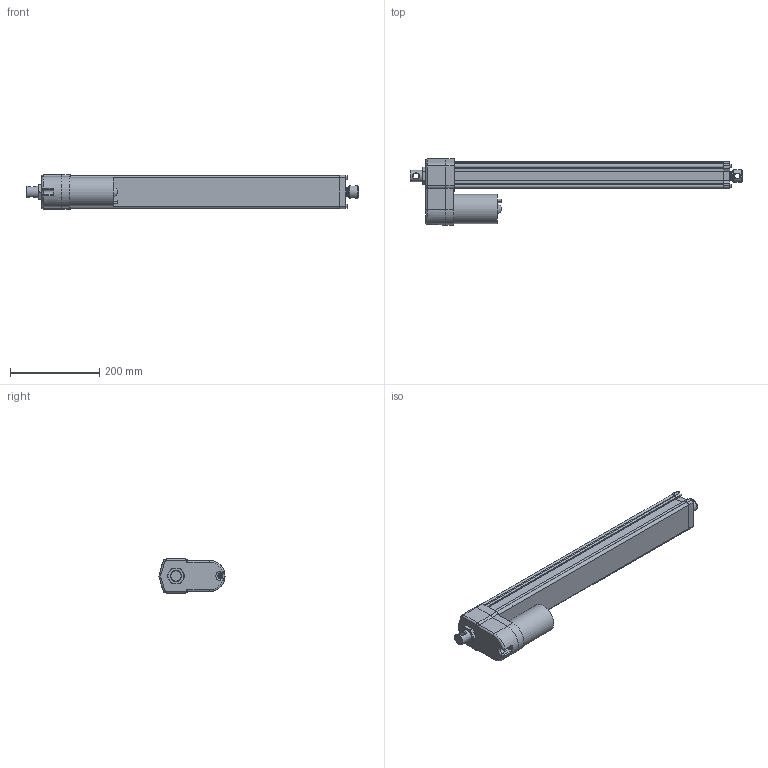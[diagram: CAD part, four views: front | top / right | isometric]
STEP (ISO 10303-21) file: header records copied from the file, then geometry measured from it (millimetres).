
FILE_DESCRIPTION( ( 'STEP AP203' ), '1' );
FILE_NAME( 'p:/temp/worker_283/temp/exporttempdir_4564_616_nlsoA/format_0/DA12-21B65M45M0N-AMM.stp', '2020-04-12T13:24:44', ( 'License CC BY-ND 4.0' ), ( 'CADENAS' ), ' ', 'PARTsolutions', ' ' );
FILE_SCHEMA( ( 'CONFIG_CONTROL_DESIGN' ) );
Length unit declared in the file: millimetre
Products named in the file (8): DA12-21B65M45M0N-AMM; _ELECTRAK-LA14-DA12-21B65MM0N-45M-EU-REAR; _Electrak-10-EU-RA-D602700; _D602768eu; _ELECTRAK-LA14-DA12--MOTOR; _DA12-21B65M45M0NAMMtube; _ELECTRAK-LA14-DA12--45-PLATE; _ELECTRAK-LA14-DA12--4521B65MNM-ROD
Assembly tree (7 placements, depth 2):
  DA12-21B65M45M0N-AMM
    _ELECTRAK-LA14-DA12-21B65MM0N-45M-EU-REAR
    _Electrak-10-EU-RA-D602700
    _D602768eu
    _ELECTRAK-LA14-DA12--MOTOR
    _DA12-21B65M45M0NAMMtube
    _ELECTRAK-LA14-DA12--45-PLATE
    _ELECTRAK-LA14-DA12--4521B65MNM-ROD
Bounding box: 743.95 x 148 x 76.2 mm (x, y, z)
Volume: 2014912.2 mm3; surface area: 569771.4 mm2
Topology: 7 solids, 8 shells, 378 faces, 942 edges, 610 vertices
Faces by surface type: plane 183, cylinder 131, cone 46, torus 14, bspline 4
Full cylindrical faces by diameter (mm): 4 x2, 4.126 x1, 4.8 x6, 5 x5, 5.6 x4, 7.878 x4, 9.398 x1, 12.2 x2, 16 x1, 21.8 x1, 25.2 x1, 25.4 x1, 26.24 x1, 28.5 x1, 28.6 x2, 47.625 x1, 65.3 x1
Entity records: 11834 total; most frequent: CARTESIAN_POINT 2729, DIRECTION 1869, ORIENTED_EDGE 1744, EDGE_CURVE 872, AXIS2_PLACEMENT_3D 702, VERTEX_POINT 602, EDGE_LOOP 485, LINE 465
